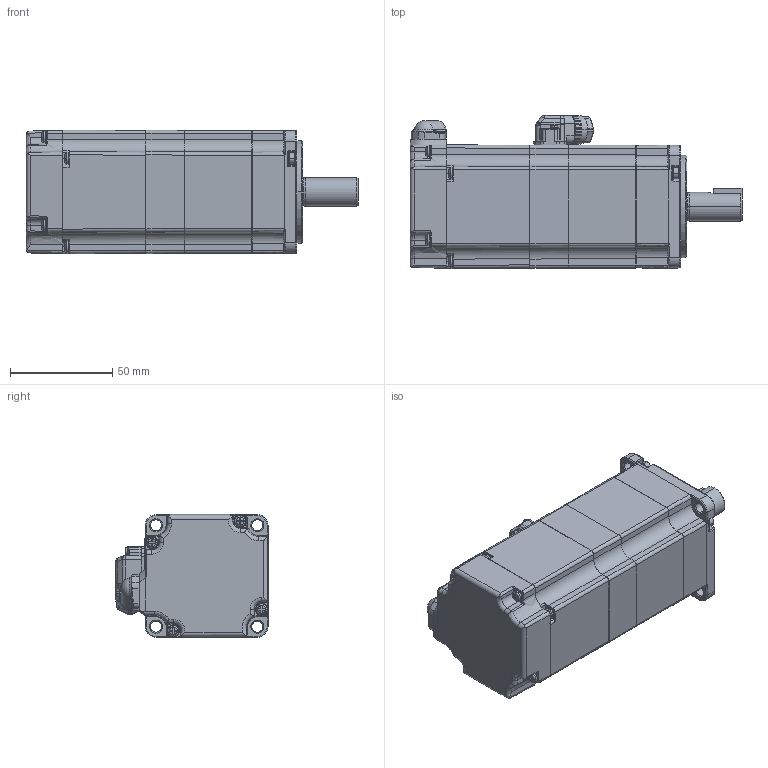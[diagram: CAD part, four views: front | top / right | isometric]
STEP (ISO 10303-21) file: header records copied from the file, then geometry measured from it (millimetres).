
FILE_DESCRIPTION( (''), '2;1');
FILE_NAME ('SGMXJ-04AUA6EC2.stp','2022-03-02T11:27:44',(''),(''),'spGate 15.6.6','','');
FILE_SCHEMA (('AUTOMOTIVE_DESIGN'));
Length unit declared in the file: millimetre
Products named in the file (10): Assembly; SGMXJ-04AUA6EC2-prt0; SGMXJ-04AUA6EC2-prt1; SGMXJ-04AUA6EC2-prt2; SGMXJ-04AUA6EC2-prt3; SGMXJ-04AUA6EC2-prt4; SGMXJ-04AUA6EC2-prt5; SGMXJ-04AUA6EC2-prt6; SGMXJ-04AUA6EC2-prt7; SGMXJ-04AUA6EC2-prt8
Assembly tree (9 placements, depth 2):
  Assembly
    SGMXJ-04AUA6EC2-prt0
    SGMXJ-04AUA6EC2-prt1
    SGMXJ-04AUA6EC2-prt2
    SGMXJ-04AUA6EC2-prt3
    SGMXJ-04AUA6EC2-prt4
    SGMXJ-04AUA6EC2-prt5
    SGMXJ-04AUA6EC2-prt6
    SGMXJ-04AUA6EC2-prt7
    SGMXJ-04AUA6EC2-prt8
Bounding box: 162 x 74.65 x 60.35 mm (x, y, z)
Volume: 436410 mm3; surface area: 45332.3 mm2
Topology: 4 solids, 9 shells, 1137 faces, 2958 edges, 1833 vertices
Faces by surface type: plane 453, cylinder 332, bspline 322, sphere 30
Entity records: 64558 total; most frequent: CARTESIAN_POINT 14858, ORIENTED_EDGE 5784, DIRECTION 5166, COLOUR_RGB 4087, PRESENTATION_STYLE_ASSIGNMENT 4087, STYLED_ITEM 4087, EDGE_CURVE 2941, DRAUGHTING_PRE_DEFINED_CURVE_FONT 2941
